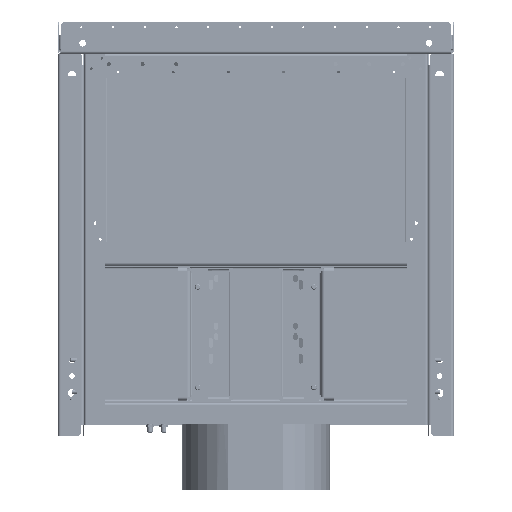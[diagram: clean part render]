
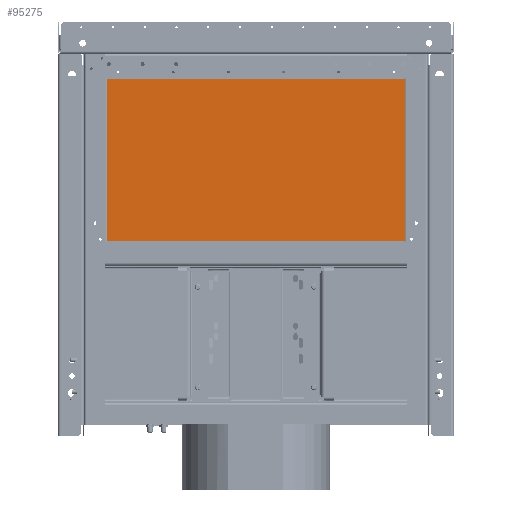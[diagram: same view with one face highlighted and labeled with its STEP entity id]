
A CAD part, front view. The second image highlights one B-rep face of the part: STEP entity #95275.
In plain terms, the highlighted planar face has unit normal (0, -1, 0) as drawn and (0, 1, 0) by its records, which use the part's own axes.
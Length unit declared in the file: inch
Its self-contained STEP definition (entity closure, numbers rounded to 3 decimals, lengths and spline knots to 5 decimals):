
#95160=DIRECTION('',(1.,0.,0.));
#95161=VECTOR('',#95160,15.4);
#95162=CARTESIAN_POINT('',(-7.7,1.93,14.1));
#95163=LINE('',#95162,#95161);
#95164=DIRECTION('',(0.,0.,1.));
#95165=VECTOR('',#95164,28.2);
#95166=CARTESIAN_POINT('',(-7.7,1.93,-14.1));
#95167=LINE('',#95166,#95165);
#95168=DIRECTION('',(-1.,0.,0.));
#95169=VECTOR('',#95168,15.4);
#95170=CARTESIAN_POINT('',(7.7,1.93,-14.1));
#95171=LINE('',#95170,#95169);
#95172=DIRECTION('',(0.,0.,-1.));
#95173=VECTOR('',#95172,28.2);
#95174=CARTESIAN_POINT('',(7.7,1.93,14.1));
#95175=LINE('',#95174,#95173);
#95184=CARTESIAN_POINT('',(-7.7,1.93,14.1));
#95185=CARTESIAN_POINT('',(7.7,1.93,14.1));
#95186=VERTEX_POINT('',#95184);
#95187=VERTEX_POINT('',#95185);
#95188=CARTESIAN_POINT('',(7.7,1.93,-14.1));
#95189=VERTEX_POINT('',#95188);
#95190=CARTESIAN_POINT('',(-7.7,1.93,-14.1));
#95191=VERTEX_POINT('',#95190);
#95264=CARTESIAN_POINT('',(0.,1.93,0.));
#95265=DIRECTION('',(0.,1.,0.));
#95266=DIRECTION('',(1.,0.,0.));
#95267=AXIS2_PLACEMENT_3D('',#95264,#95265,#95266);
#95268=PLANE('',#95267);
#95269=ORIENTED_EDGE('',*,*,#95216,.F.);
#95270=ORIENTED_EDGE('',*,*,#95231,.F.);
#95271=ORIENTED_EDGE('',*,*,#95245,.F.);
#95272=ORIENTED_EDGE('',*,*,#95258,.F.);
#95273=EDGE_LOOP('',(#95269,#95270,#95271,#95272));
#95274=FACE_OUTER_BOUND('',#95273,.F.);
#95275=ADVANCED_FACE('',(#95274),#95268,.T.);
#95216=EDGE_CURVE('',#95186,#95187,#95163,.T.);
#95231=EDGE_CURVE('',#95191,#95186,#95167,.T.);
#95245=EDGE_CURVE('',#95189,#95191,#95171,.T.);
#95258=EDGE_CURVE('',#95187,#95189,#95175,.T.);
